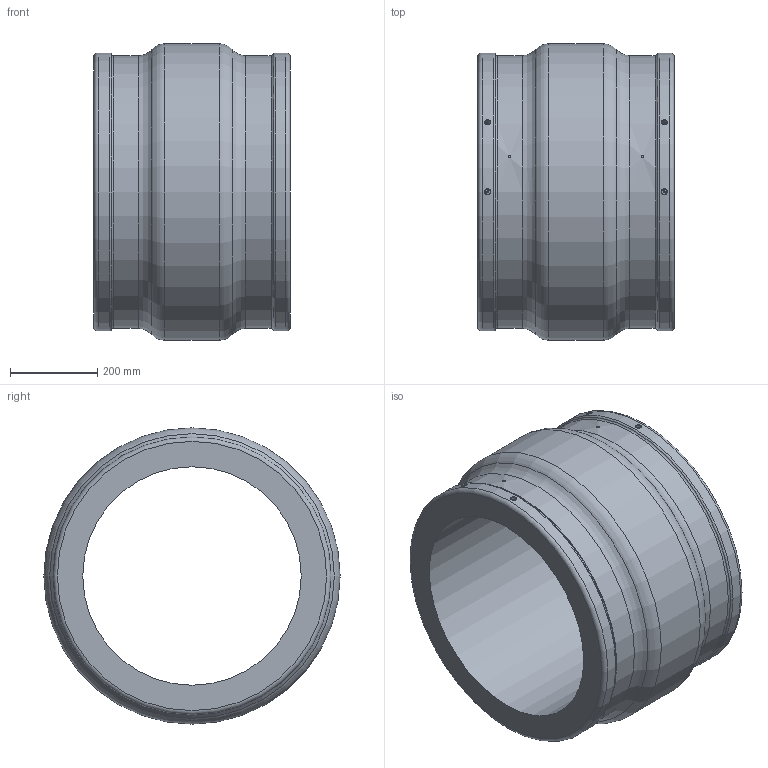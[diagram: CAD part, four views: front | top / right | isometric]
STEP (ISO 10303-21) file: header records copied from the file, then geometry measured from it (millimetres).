
FILE_DESCRIPTION(/* description */ ('Unknown'),/* implementation_level */ '2;1');
FILE_NAME(/* name */ 'MP500H',/* time_stamp */ '2021-06-23T17:11:48+02:00',/* author */ ('Unknown'),/* organization */ ('Unknown'),/* preprocessor_version */ 'ST-DEVELOPER v16.7',/* originating_system */ 'Solid Edge',/* authorisation */ 'Unknown');
FILE_SCHEMA (('AUTOMOTIVE_DESIGN {1 0 10303 214 3 1 1}'));
Length unit declared in the file: millimetre
Products named in the file (1): MP500H
Bounding box: 450 x 678 x 678 mm (x, y, z)
Volume: 60344124.6 mm3; surface area: 1893311 mm2
Topology: 1 solids, 1 shells, 42 faces, 85 edges, 54 vertices
Faces by surface type: cylinder 16, plane 10, torus 10, bspline 6
Full cylindrical faces by diameter (mm): 4 x4, 12 x4, 500 x1, 624 x2, 636 x2, 678 x1
Entity records: 1392 total; most frequent: CARTESIAN_POINT 695, DIRECTION 134, ORIENTED_EDGE 84, EDGE_LOOP 84, FACE_BOUND 84, AXIS2_PLACEMENT_3D 67, EDGE_CURVE 42, VERTEX_POINT 42
